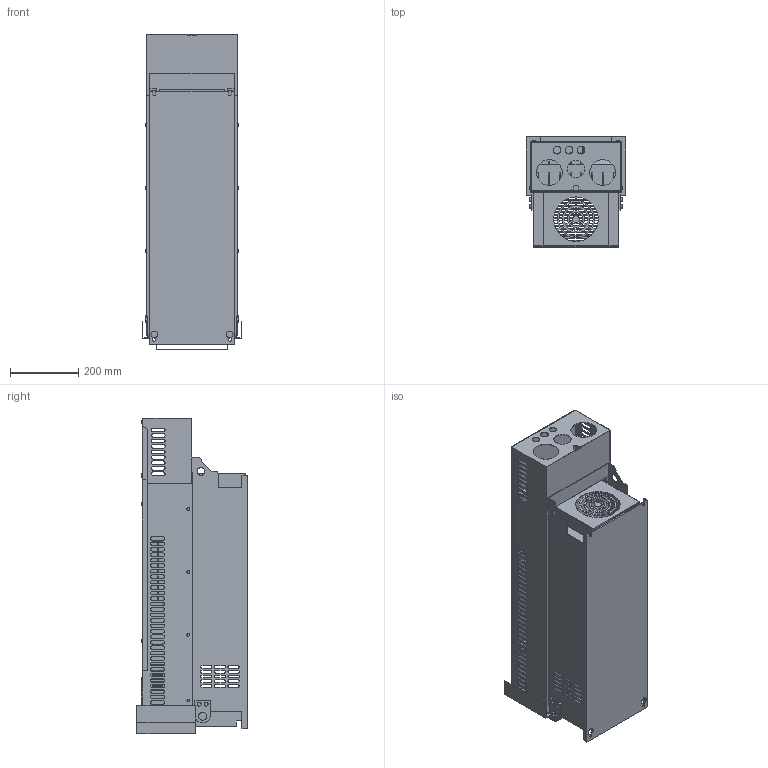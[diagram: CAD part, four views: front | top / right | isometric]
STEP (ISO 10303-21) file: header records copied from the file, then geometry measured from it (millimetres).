
FILE_DESCRIPTION((''),'2;1');
FILE_NAME('ASM0001_ASM','2016-05-13T',('SESA95854'),('Schneider-Electric'),'PRO/ENGINEER BY PARAMETRIC TECHNOLOGY CORPORATION, 2012420','PRO/ENGINEER BY PARAMETRIC TECHNOLOGY CORPORATION, 2012420','');
FILE_SCHEMA(('CONFIG_CONTROL_DESIGN'));
Products named in the file (16): PRT0001; PRT0002; ASM0003_ASM; PRT0003; PRT0004; PRT0005; PRT0006; PRT0007; PRT0008; ASM0004_ASM; PRT0009; PRT0010; PRT0011; PRT0012; ASM0002_ASM; ASM0001_ASM
Assembly tree (16 placements, depth 4):
  ASM0001_ASM
    ASM0002_ASM
      ASM0003_ASM
        PRT0001
        PRT0002
      PRT0003  x2
      ASM0004_ASM
        PRT0004
        PRT0005
        PRT0006
        PRT0007
        PRT0008
      PRT0009
      PRT0010
      PRT0011
      PRT0012
Bounding box: 290 x 322.5 x 922 mm (x, y, z)
Volume: 7867203.1 mm3; surface area: 3230874.5 mm2
Topology: 12 solids, 12 shells, 2046 faces, 6504 edges, 4462 vertices
Faces by surface type: plane 1202, cylinder 843, extrusion 1
Entity records: 74269 total; most frequent: CARTESIAN_POINT 13967, ORIENTED_EDGE 12898, DIRECTION 12406, EDGE_CURVE 6449, VERTEX_POINT 4425, VECTOR 4174, LINE 4173, AXIS2_PLACEMENT_3D 4116
